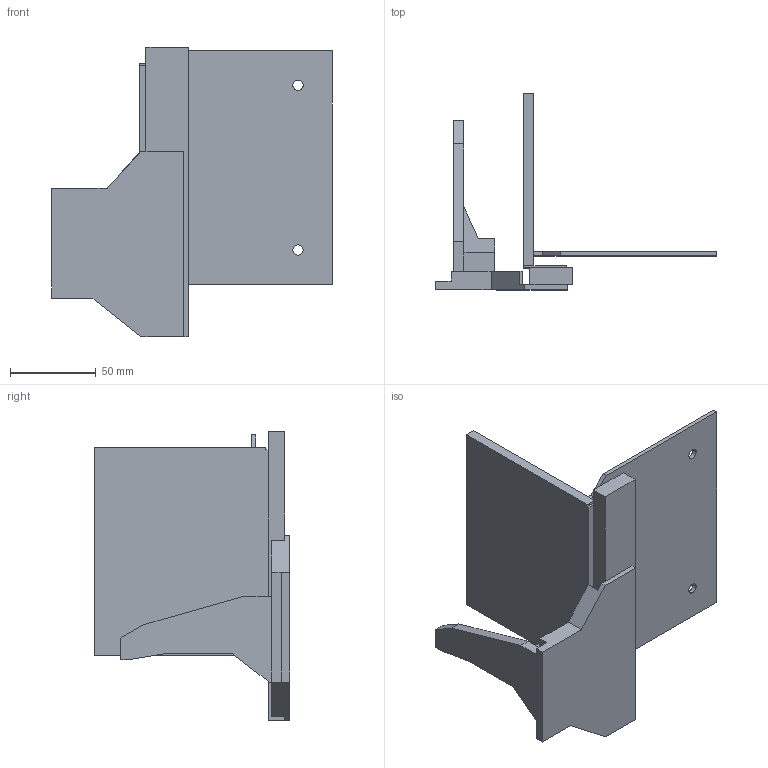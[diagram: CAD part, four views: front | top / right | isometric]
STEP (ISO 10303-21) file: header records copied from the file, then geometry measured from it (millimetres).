
FILE_DESCRIPTION (( 'STEP AP214' ), '1' );
FILE_NAME ('Sockelhebebeschlag links.step', '2010-09-23T07:57:39', ( 'grass' ), ( '' ), 'SwSTEP 2.0', 'SolidWorks 2010', '' );
FILE_SCHEMA (( 'AUTOMOTIVE_DESIGN' ));
Length unit declared in the file: millimetre
Products named in the file (1): Sockelhebebeschlag links
Bounding box: 163.55 x 113.95 x 168.4 mm (x, y, z)
Volume: 175163.1 mm3; surface area: 88947.4 mm2
Topology: 1 solids, 1 shells, 72 faces, 202 edges, 133 vertices
Faces by surface type: plane 68, cylinder 4
Entity records: 2316 total; most frequent: CARTESIAN_POINT 408, ORIENTED_EDGE 404, DIRECTION 356, EDGE_CURVE 202, LINE 194, VECTOR 194, VERTEX_POINT 133, AXIS2_PLACEMENT_3D 81
